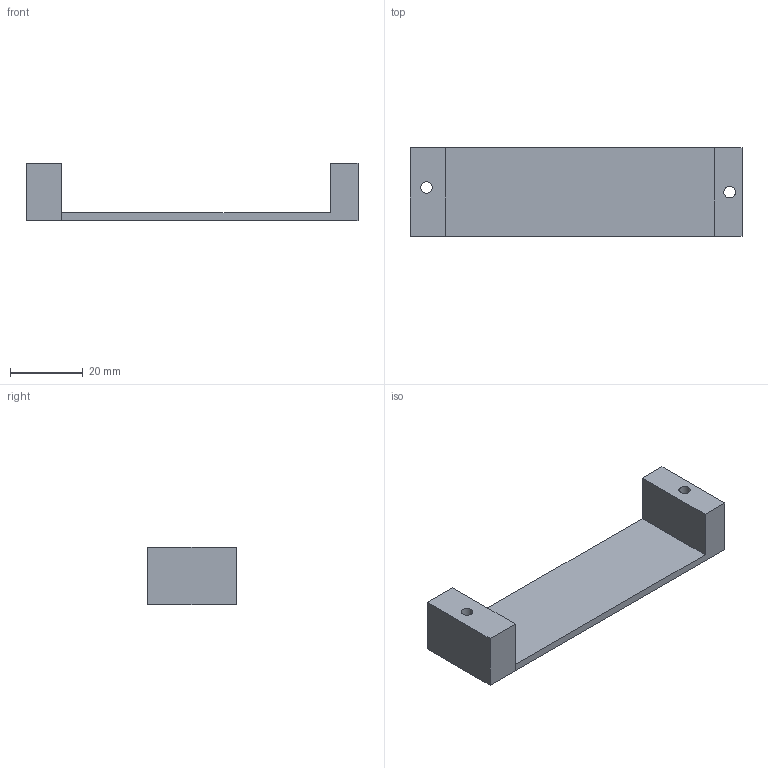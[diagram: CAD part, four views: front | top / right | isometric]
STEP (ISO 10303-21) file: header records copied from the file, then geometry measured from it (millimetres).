
FILE_DESCRIPTION(/* description */ (''),/* implementation_level */ '2;1');
FILE_NAME(/* name */ 'Component15.step',/* time_stamp */ '2026-06-10T02:32:01-04:00',/* author */ (''),/* organization */ (''),/* preprocessor_version */ 'ST-DEVELOPER v20.1',/* originating_system */ 'Autodesk Translation Framework v15.8.0.0',/* authorisation */ '');
FILE_SCHEMA (('AUTOMOTIVE_DESIGN { 1 0 10303 214 3 1 1 }'));
Length unit declared in the file: inch
Products named in the file (1): 2026-06-10-02-32-01-409
Bounding box: 91.44 x 24.46 x 15.75 mm (x, y, z)
Volume: 10273.3 mm3; surface area: 7052.4 mm2
Topology: 1 solids, 1 shells, 13 faces, 33 edges, 22 vertices
Faces by surface type: plane 11, cylinder 2
Full cylindrical faces by diameter (mm): 3.175 x2
Entity records: 434 total; most frequent: CARTESIAN_POINT 69, ORIENTED_EDGE 66, DIRECTION 65, EDGE_CURVE 33, LINE 29, VECTOR 29, VERTEX_POINT 22, AXIS2_PLACEMENT_3D 18
